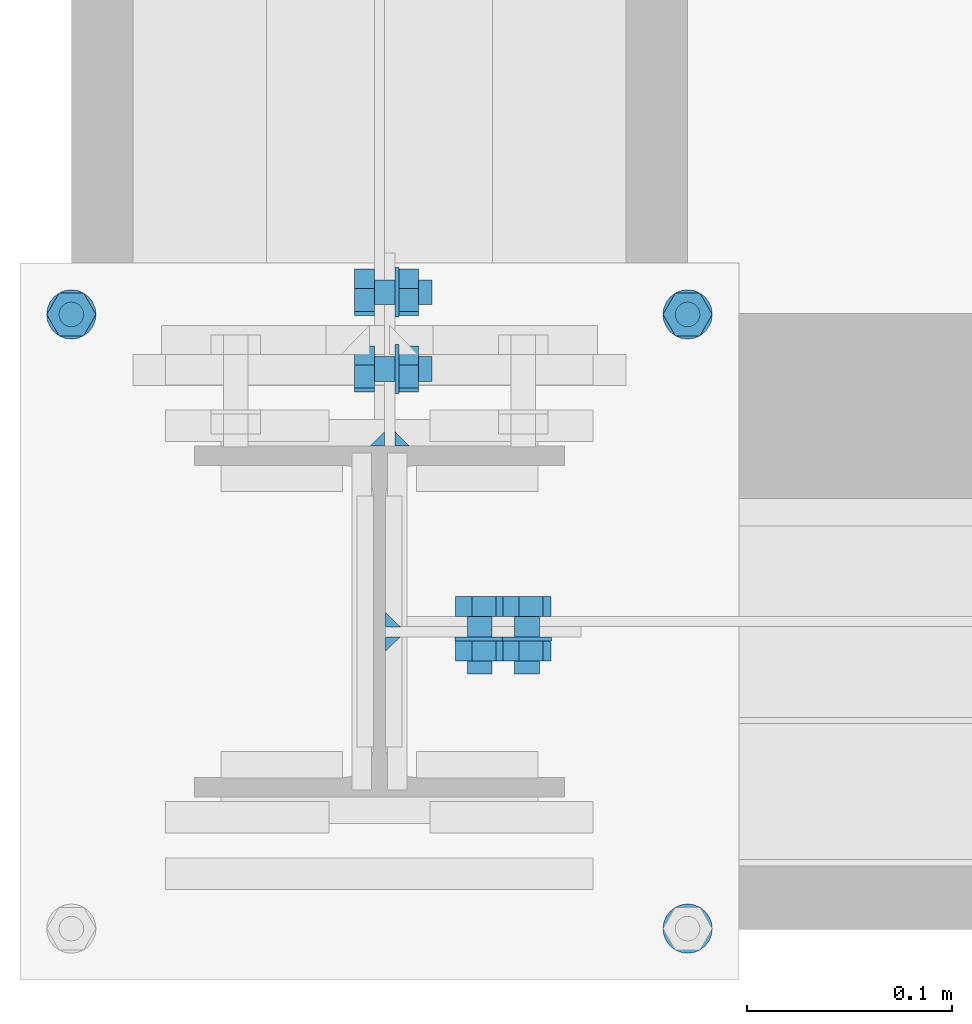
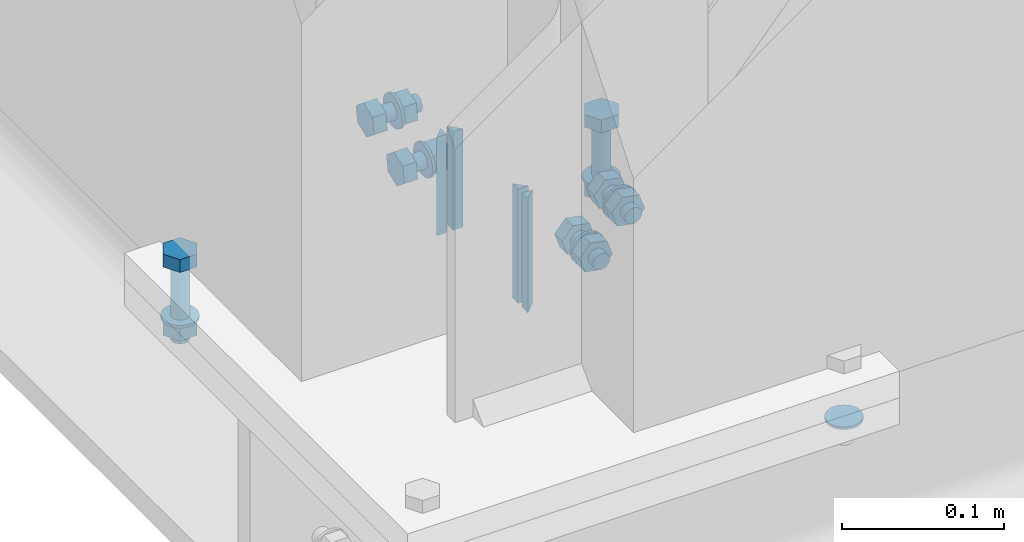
# One storey, part 27 of 66: 25 mechanical fasteners, 4 fasteners.
"""IFC4 building model written with IfcOpenShell, lengths in metres."""

from ifc_helpers import new_model, si_unit, frame, origin_with_axes, place, context, project, spatial, polyline, outline, extrude, type_object, element, save


model = new_model("IFC4")

# Units and contexts
model_context = context("Model", 3, precision=1e-05, world=origin_with_axes())
ifc_project = project(units=[si_unit("LENGTHUNIT", "METRE"), si_unit("AREAUNIT", "SQUARE_METRE"), si_unit("VOLUMEUNIT", "CUBIC_METRE"), si_unit("MASSUNIT", "GRAM", prefix="KILO"), si_unit("TIMEUNIT", "SECOND"), si_unit("PLANEANGLEUNIT", "RADIAN"), si_unit("SOLIDANGLEUNIT", "STERADIAN"), si_unit("THERMODYNAMICTEMPERATUREUNIT", "DEGREE_CELSIUS")], contexts=[model_context])

# Site, building, storey
placement_1 = place(None, origin_with_axes())
site = spatial("IfcSite", under=ifc_project, at=placement_1, Name="Italia", CompositionType="ELEMENT")
building = spatial("IfcBuilding", under=site, at=placement_1, Name="Uffici", CompositionType="ELEMENT")
storey_placement = place(None, frame((0.0, 0.0, 3.299999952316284), z_axis=(0.0, 0.0, 1.0), x_axis=(1.0, 0.0, 0.0)))
storey = spatial("IfcBuildingStorey", under=building, at=storey_placement, Name="Storey 1", CompositionType="ELEMENT", Elevation=3.299999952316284)

# Mechanical fasteners
mechanical_fastener_type_1 = type_object("IfcMechanicalFastenerType", Name="Collegamenti 0101_0201 0102_0202 0103_0203 0104_0204 0105_0205", PredefinedType="BOLT")
placement_2 = place(placement_1, origin_with_axes())
mechanical_fastener_1_placement = place(placement_2, origin_with_axes())
element("IfcMechanicalFastener", 1, at=mechanical_fastener_1_placement, inside=storey, type_object=mechanical_fastener_type_1, Name="Collegamenti 0101_0201 0102_0202 0103_0203 0104_0204 0105_0205", NominalDiameter=0.024, context=model_context, shape_type="SweptSolid", body=[
    extrude(outline(polyline([(0.0, 0.0), (-0.000408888, -0.00310583), (-0.00160769, -0.006), (-0.00351471, -0.00848529), (-0.006, -0.0103923), (-0.00889416, -0.0115911), (-0.012, -0.012), (-0.0151058, -0.0115911), (-0.018, -0.0103923), (-0.0204853, -0.00848529), (-0.0223923, -0.006), (-0.0235911, -0.00310583), (-0.024, 0.0), (-0.0235911, 0.00310583), (-0.0223923, 0.006), (-0.0204853, 0.00848529), (-0.018, 0.0103923), (-0.0151058, 0.0115911), (-0.012, 0.012), (-0.00889416, 0.0115911), (-0.006, 0.0103923), (-0.00351471, 0.00848527), (-0.00160769, 0.006), (-0.000408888, 0.00310582), (0.0, 0.0)])), frame((0.15, -0.1375, 3.278), z_axis=(0.0, 0.0, 1.0), x_axis=(0.0, 1.0, 0.0)), (0.0, 0.0, 1.0), 0.00200009),
])
mechanical_fastener_type_2 = type_object("IfcMechanicalFastenerType", Name="Collegamenti 0101_0201 0102_0202 0103_0203 0104_0204 0105_0205", PredefinedType="BOLT")
mechanical_fastener_2_placement = place(placement_2, origin_with_axes())
element("IfcMechanicalFastener", 2, at=mechanical_fastener_2_placement, inside=storey, type_object=mechanical_fastener_type_2, Name="Collegamenti 0101_0201 0102_0202 0103_0203 0104_0204 0105_0205", NominalDiameter=0.012, context=model_context, shape_type="SweptSolid", body=[
    extrude(outline(polyline([(0.0, 0.0), (0.0, 0.012), (0.0103923, 0.018), (0.0207846, 0.012), (0.0207846, 0.0), (0.0103923, -0.006), (0.0, 0.0)])), frame((-0.144, 0.139108, 3.32), z_axis=(0.0, 0.0, 1.0), x_axis=(0.0, 1.0, 0.0)), (0.0, 0.0, 1.0), 0.00959992),
])
mechanical_fastener_type_3 = type_object("IfcMechanicalFastenerType", Name="Collegamenti 0101_0201 0102_0202 0103_0203 0104_0204 0105_0205", PredefinedType="BOLT")
mechanical_fastener_3_placement = place(placement_2, origin_with_axes())
element("IfcMechanicalFastener", 3, at=mechanical_fastener_3_placement, inside=storey, type_object=mechanical_fastener_type_3, Name="Collegamenti 0101_0201 0102_0202 0103_0203 0104_0204 0105_0205", NominalDiameter=0.012, context=model_context, shape_type="SweptSolid", body=[
    extrude(outline(polyline([(0.0, 0.0), (-0.000204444, -0.00155291), (-0.000803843, -0.00300001), (-0.00175735, -0.00424264), (-0.00299999, -0.00519615), (-0.00444709, -0.00579555), (-0.006, -0.006), (-0.00755291, -0.00579555), (-0.009, -0.00519615), (-0.0102426, -0.00424264), (-0.0111962, -0.00300001), (-0.0117956, -0.00155291), (-0.012, 0.0), (-0.0117956, 0.00155291), (-0.0111962, 0.00300001), (-0.0102426, 0.00424264), (-0.009, 0.00519615), (-0.00755291, 0.00579555), (-0.006, 0.006), (-0.00444709, 0.00579555), (-0.00299999, 0.00519615), (-0.00175735, 0.00424264), (-0.000803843, 0.00299999), (-0.000204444, 0.00155291), (0.0, 0.0)])), frame((-0.15, 0.1555, 3.262), z_axis=(0.0, 0.0, 1.0), x_axis=(0.0, 1.0, 0.0)), (0.0, 0.0, 1.0), 0.0580001),
])
mechanical_fastener_type_4 = type_object("IfcMechanicalFastenerType", Name="Collegamenti 0101_0201 0102_0202 0103_0203 0104_0204 0105_0205", PredefinedType="BOLT")
mechanical_fastener_4_placement = place(placement_2, origin_with_axes())
element("IfcMechanicalFastener", 4, at=mechanical_fastener_4_placement, inside=storey, type_object=mechanical_fastener_type_4, Name="Collegamenti 0101_0201 0102_0202 0103_0203 0104_0204 0105_0205", NominalDiameter=0.012, context=model_context, shape_type="SweptSolid", body=[
    extrude(outline(polyline([(0.0, 0.0), (0.0, 0.012), (0.0103923, 0.018), (0.0207846, 0.012), (0.0207846, 0.0), (0.0103923, -0.006), (0.0, 0.0)])), frame((-0.144, 0.139108, 3.2684), z_axis=(0.0, 0.0, 1.0), x_axis=(0.0, 1.0, 0.0)), (0.0, 0.0, 1.0), 0.00959992),
])
mechanical_fastener_type_5 = type_object("IfcMechanicalFastenerType", Name="Collegamenti 0101_0201 0102_0202 0103_0203 0104_0204 0105_0205", PredefinedType="BOLT")
mechanical_fastener_5_placement = place(placement_2, origin_with_axes())
element("IfcMechanicalFastener", 5, at=mechanical_fastener_5_placement, inside=storey, type_object=mechanical_fastener_type_5, Name="Collegamenti 0101_0201 0102_0202 0103_0203 0104_0204 0105_0205", NominalDiameter=0.024, context=model_context, shape_type="SweptSolid", body=[
    extrude(outline(polyline([(0.0, 0.0), (-0.000408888, -0.00310583), (-0.00160769, -0.006), (-0.00351471, -0.00848529), (-0.006, -0.0103923), (-0.00889416, -0.0115911), (-0.012, -0.012), (-0.0151058, -0.0115911), (-0.018, -0.0103923), (-0.0204853, -0.00848529), (-0.0223923, -0.006), (-0.0235911, -0.00310583), (-0.024, 0.0), (-0.0235911, 0.00310583), (-0.0223923, 0.006), (-0.0204853, 0.00848529), (-0.018, 0.0103923), (-0.0151058, 0.0115911), (-0.012, 0.012), (-0.00889416, 0.0115911), (-0.006, 0.0103923), (-0.00351471, 0.00848527), (-0.00160769, 0.006), (-0.000408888, 0.00310582), (0.0, 0.0)])), frame((-0.15, 0.1615, 3.278), z_axis=(0.0, 0.0, 1.0), x_axis=(0.0, 1.0, 0.0)), (0.0, 0.0, 1.0), 0.00200009),
])
mechanical_fastener_type_6 = type_object("IfcMechanicalFastenerType", Name="Collegamenti 0101_0201 0102_0202 0103_0203 0104_0204 0105_0205", PredefinedType="BOLT")
mechanical_fastener_6_placement = place(placement_2, origin_with_axes())
element("IfcMechanicalFastener", 6, at=mechanical_fastener_6_placement, inside=storey, type_object=mechanical_fastener_type_6, Name="Collegamenti 0101_0201 0102_0202 0103_0203 0104_0204 0105_0205", NominalDiameter=0.012, context=model_context, shape_type="SweptSolid", body=[
    extrude(outline(polyline([(0.0, 0.0), (0.0, 0.012), (0.0103923, 0.018), (0.0207846, 0.012), (0.0207846, 0.0), (0.0103923, -0.006), (0.0, 0.0)])), frame((0.156, 0.139108, 3.32), z_axis=(0.0, 0.0, 1.0), x_axis=(0.0, 1.0, 0.0)), (0.0, 0.0, 1.0), 0.00959992),
])
mechanical_fastener_type_7 = type_object("IfcMechanicalFastenerType", Name="Collegamenti 0101_0201 0102_0202 0103_0203 0104_0204 0105_0205", PredefinedType="BOLT")
mechanical_fastener_7_placement = place(placement_2, origin_with_axes())
element("IfcMechanicalFastener", 7, at=mechanical_fastener_7_placement, inside=storey, type_object=mechanical_fastener_type_7, Name="Collegamenti 0101_0201 0102_0202 0103_0203 0104_0204 0105_0205", NominalDiameter=0.012, context=model_context, shape_type="SweptSolid", body=[
    extrude(outline(polyline([(0.0, 0.0), (-0.000204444, -0.00155291), (-0.000803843, -0.00300001), (-0.00175735, -0.00424264), (-0.00299999, -0.00519615), (-0.00444709, -0.00579555), (-0.006, -0.006), (-0.00755291, -0.00579555), (-0.009, -0.00519615), (-0.0102426, -0.00424264), (-0.0111962, -0.00300001), (-0.0117956, -0.00155291), (-0.012, 0.0), (-0.0117956, 0.00155291), (-0.0111962, 0.00300001), (-0.0102426, 0.00424264), (-0.009, 0.00519615), (-0.00755291, 0.00579555), (-0.006, 0.006), (-0.00444709, 0.00579555), (-0.00299999, 0.00519615), (-0.00175735, 0.00424264), (-0.000803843, 0.00299999), (-0.000204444, 0.00155291), (0.0, 0.0)])), frame((0.15, 0.1555, 3.262), z_axis=(0.0, 0.0, 1.0), x_axis=(0.0, 1.0, 0.0)), (0.0, 0.0, 1.0), 0.0580001),
])
mechanical_fastener_type_8 = type_object("IfcMechanicalFastenerType", Name="Collegamenti 0101_0201 0102_0202 0103_0203 0104_0204 0105_0205", PredefinedType="BOLT")
mechanical_fastener_8_placement = place(placement_2, origin_with_axes())
element("IfcMechanicalFastener", 8, at=mechanical_fastener_8_placement, inside=storey, type_object=mechanical_fastener_type_8, Name="Collegamenti 0101_0201 0102_0202 0103_0203 0104_0204 0105_0205", NominalDiameter=0.012, context=model_context, shape_type="SweptSolid", body=[
    extrude(outline(polyline([(0.0, 0.0), (0.0, 0.012), (0.0103923, 0.018), (0.0207846, 0.012), (0.0207846, 0.0), (0.0103923, -0.006), (0.0, 0.0)])), frame((0.156, 0.139108, 3.2684), z_axis=(0.0, 0.0, 1.0), x_axis=(0.0, 1.0, 0.0)), (0.0, 0.0, 1.0), 0.00959992),
])
mechanical_fastener_type_9 = type_object("IfcMechanicalFastenerType", Name="Collegamenti 0101_0201 0102_0202 0103_0203 0104_0204 0105_0205", PredefinedType="BOLT")
mechanical_fastener_9_placement = place(placement_2, origin_with_axes())
element("IfcMechanicalFastener", 9, at=mechanical_fastener_9_placement, inside=storey, type_object=mechanical_fastener_type_9, Name="Collegamenti 0101_0201 0102_0202 0103_0203 0104_0204 0105_0205", NominalDiameter=0.024, context=model_context, shape_type="SweptSolid", body=[
    extrude(outline(polyline([(0.0, 0.0), (-0.000408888, -0.00310583), (-0.00160769, -0.006), (-0.00351471, -0.00848529), (-0.006, -0.0103923), (-0.00889416, -0.0115911), (-0.012, -0.012), (-0.0151058, -0.0115911), (-0.018, -0.0103923), (-0.0204853, -0.00848529), (-0.0223923, -0.006), (-0.0235911, -0.00310583), (-0.024, 0.0), (-0.0235911, 0.00310583), (-0.0223923, 0.006), (-0.0204853, 0.00848529), (-0.018, 0.0103923), (-0.0151058, 0.0115911), (-0.012, 0.012), (-0.00889416, 0.0115911), (-0.006, 0.0103923), (-0.00351471, 0.00848527), (-0.00160769, 0.006), (-0.000408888, 0.00310582), (0.0, 0.0)])), frame((0.15, 0.1615, 3.278), z_axis=(0.0, 0.0, 1.0), x_axis=(0.0, 1.0, 0.0)), (0.0, 0.0, 1.0), 0.00200009),
])
mechanical_fastener_type_10 = type_object("IfcMechanicalFastenerType", Name="Collegamento 0101_0202", PredefinedType="BOLT")
mechanical_fastener_10_placement = place(placement_2, origin_with_axes())
element("IfcMechanicalFastener", 10, at=mechanical_fastener_10_placement, inside=storey, type_object=mechanical_fastener_type_10, Name="Collegamento 0101_0202", NominalDiameter=0.012, context=model_context, shape_type="SweptSolid", body=[
    extrude(outline(polyline([(0.0, 0.0), (0.00786194, -0.00906587), (0.0196442, -0.00679016), (0.0235645, 0.00455141), (0.0157025, 0.0136173), (0.00392028, 0.0113416), (0.0, 0.0)])), frame((0.0606436, 0.0025, 3.35407), z_axis=(0.0, 1.0, 0.0), x_axis=(-1.0, 0.0, 0.0)), (0.0, 0.0, 1.0), 0.0096),
])
mechanical_fastener_type_11 = type_object("IfcMechanicalFastenerType", Name="Collegamento 0101_0202", PredefinedType="BOLT")
mechanical_fastener_11_placement = place(placement_2, origin_with_axes())
element("IfcMechanicalFastener", 11, at=mechanical_fastener_11_placement, inside=storey, type_object=mechanical_fastener_type_11, Name="Collegamento 0101_0202", NominalDiameter=0.012, context=model_context, shape_type="SweptSolid", body=[
    extrude(outline(polyline([(0.0, 0.0), (-0.000204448, -0.00155282), (-0.000803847, -0.00300002), (-0.00175736, -0.00424266), (-0.003, -0.00519609), (-0.00444709, -0.00579548), (-0.006, -0.00600004), (-0.00755291, -0.00579548), (-0.009, -0.00519609), (-0.0102426, -0.00424266), (-0.0111962, -0.00300002), (-0.0117956, -0.00155282), (-0.012, 0.0), (-0.0117956, 0.00155282), (-0.0111962, 0.00300002), (-0.0102426, 0.00424266), (-0.009, 0.00519609), (-0.00755291, 0.00579548), (-0.006, 0.00600004), (-0.00444709, 0.00579548), (-0.003, 0.00519609), (-0.00175736, 0.00424266), (-0.000803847, 0.00300002), (-0.000204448, 0.00155282), (0.0, 0.0)])), frame((0.0428614, -0.0255, 3.35634), z_axis=(0.0, 1.0, 0.0), x_axis=(-1.0, 0.0, 0.0)), (0.0, 0.0, 1.0), 0.028),
])
mechanical_fastener_type_12 = type_object("IfcMechanicalFastenerType", Name="Collegamento 0101_0202", PredefinedType="BOLT")
mechanical_fastener_12_placement = place(placement_2, origin_with_axes())
element("IfcMechanicalFastener", 12, at=mechanical_fastener_12_placement, inside=storey, type_object=mechanical_fastener_type_12, Name="Collegamento 0101_0202", NominalDiameter=0.012, context=model_context, shape_type="SweptSolid", body=[
    extrude(outline(polyline([(0.0, 0.0), (0.00786194, -0.00906587), (0.0196442, -0.00679016), (0.0235645, 0.00455141), (0.0157025, 0.0136173), (0.00392028, 0.0113416), (0.0, 0.0)])), frame((0.0606436, -0.0191, 3.35407), z_axis=(0.0, 1.0, 0.0), x_axis=(-1.0, 0.0, 0.0)), (0.0, 0.0, 1.0), 0.0096),
])
mechanical_fastener_type_13 = type_object("IfcMechanicalFastenerType", Name="Collegamento 0101_0202", PredefinedType="BOLT")
mechanical_fastener_13_placement = place(placement_2, origin_with_axes())
element("IfcMechanicalFastener", 13, at=mechanical_fastener_13_placement, inside=storey, type_object=mechanical_fastener_type_13, Name="Collegamento 0101_0202", NominalDiameter=0.024, context=model_context, shape_type="SweptSolid", body=[
    extrude(outline(polyline([(0.0, 0.0), (-0.000408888, -0.00310588), (-0.00160769, -0.00600004), (-0.00351472, -0.00848532), (-0.006, -0.0103922), (-0.00889417, -0.0115912), (-0.012, -0.0120001), (-0.0151058, -0.0115912), (-0.018, -0.0103922), (-0.0204853, -0.00848532), (-0.0223923, -0.00600004), (-0.0235911, -0.00310588), (-0.024, 0.0), (-0.0235911, 0.00310588), (-0.0223923, 0.00600004), (-0.0204853, 0.00848532), (-0.018, 0.0103922), (-0.0151058, 0.0115912), (-0.012, 0.0120001), (-0.00889417, 0.0115912), (-0.006, 0.0103922), (-0.00351471, 0.00848532), (-0.00160769, 0.00600004), (-0.000408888, 0.00310588), (0.0, 0.0)])), frame((0.0368614, -0.0095, 3.35634), z_axis=(0.0, 1.0, 0.0), x_axis=(-1.0, 0.0, 0.0)), (0.0, 0.0, 1.0), 0.002),
])
mechanical_fastener_type_14 = type_object("IfcMechanicalFastenerType", Name="Collegamento 0101_0202", PredefinedType="BOLT")
mechanical_fastener_14_placement = place(placement_2, origin_with_axes())
element("IfcMechanicalFastener", 14, at=mechanical_fastener_14_placement, inside=storey, type_object=mechanical_fastener_type_14, Name="Collegamento 0101_0202", NominalDiameter=0.012, context=model_context, shape_type="SweptSolid", body=[
    extrude(outline(polyline([(0.0, 0.0), (0.00786194, -0.00906587), (0.0196442, -0.00679016), (0.0235645, 0.00455141), (0.0157025, 0.0136173), (0.00392029, 0.0113416), (0.0, 0.0)])), frame((0.0835743, 0.0025, 3.38051), z_axis=(0.0, 1.0, 0.0), x_axis=(-1.0, 0.0, 0.0)), (0.0, 0.0, 1.0), 0.0096),
])
mechanical_fastener_type_15 = type_object("IfcMechanicalFastenerType", Name="Collegamento 0101_0202", PredefinedType="BOLT")
mechanical_fastener_15_placement = place(placement_2, origin_with_axes())
element("IfcMechanicalFastener", 15, at=mechanical_fastener_15_placement, inside=storey, type_object=mechanical_fastener_type_15, Name="Collegamento 0101_0202", NominalDiameter=0.012, context=model_context, shape_type="SweptSolid", body=[
    extrude(outline(polyline([(0.0, 0.0), (-0.000204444, -0.00155282), (-0.000803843, -0.00300002), (-0.00175735, -0.00424266), (-0.003, -0.00519609), (-0.00444708, -0.00579548), (-0.006, -0.00600004), (-0.00755291, -0.00579548), (-0.009, -0.00519609), (-0.0102426, -0.00424266), (-0.0111962, -0.00300002), (-0.0117956, -0.00155282), (-0.012, 0.0), (-0.0117956, 0.00155282), (-0.0111962, 0.00300002), (-0.0102426, 0.00424266), (-0.009, 0.00519609), (-0.00755291, 0.00579548), (-0.006, 0.00600004), (-0.00444708, 0.00579548), (-0.003, 0.00519609), (-0.00175735, 0.00424266), (-0.000803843, 0.00300002), (-0.000204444, 0.00155282), (0.0, 0.0)])), frame((0.0657921, -0.0255, 3.38279), z_axis=(0.0, 1.0, 0.0), x_axis=(-1.0, 0.0, 0.0)), (0.0, 0.0, 1.0), 0.028),
])
mechanical_fastener_type_16 = type_object("IfcMechanicalFastenerType", Name="Collegamento 0101_0202", PredefinedType="BOLT")
mechanical_fastener_16_placement = place(placement_2, origin_with_axes())
element("IfcMechanicalFastener", 16, at=mechanical_fastener_16_placement, inside=storey, type_object=mechanical_fastener_type_16, Name="Collegamento 0101_0202", NominalDiameter=0.012, context=model_context, shape_type="SweptSolid", body=[
    extrude(outline(polyline([(0.0, 0.0), (0.00786194, -0.00906587), (0.0196442, -0.00679016), (0.0235645, 0.00455141), (0.0157025, 0.0136173), (0.00392029, 0.0113416), (0.0, 0.0)])), frame((0.0835743, -0.0191, 3.38051), z_axis=(0.0, 1.0, 0.0), x_axis=(-1.0, 0.0, 0.0)), (0.0, 0.0, 1.0), 0.0096),
])
mechanical_fastener_type_17 = type_object("IfcMechanicalFastenerType", Name="Collegamento 0101_0202", PredefinedType="BOLT")
mechanical_fastener_17_placement = place(placement_2, origin_with_axes())
element("IfcMechanicalFastener", 17, at=mechanical_fastener_17_placement, inside=storey, type_object=mechanical_fastener_type_17, Name="Collegamento 0101_0202", NominalDiameter=0.024, context=model_context, shape_type="SweptSolid", body=[
    extrude(outline(polyline([(0.0, 0.0), (-0.000408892, -0.00310588), (-0.0016077, -0.00600004), (-0.00351472, -0.00848532), (-0.006, -0.0103922), (-0.00889418, -0.0115912), (-0.012, -0.0120001), (-0.0151058, -0.0115912), (-0.018, -0.0103922), (-0.0204853, -0.00848532), (-0.0223923, -0.00600004), (-0.0235911, -0.00310588), (-0.024, 0.0), (-0.0235911, 0.00310588), (-0.0223923, 0.00600004), (-0.0204853, 0.00848532), (-0.018, 0.0103922), (-0.0151058, 0.0115912), (-0.012, 0.0120001), (-0.00889418, 0.0115912), (-0.006, 0.0103922), (-0.00351471, 0.00848532), (-0.00160769, 0.00600004), (-0.000408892, 0.00310588), (0.0, 0.0)])), frame((0.0597921, -0.0095, 3.38279), z_axis=(0.0, 1.0, 0.0), x_axis=(-1.0, 0.0, 0.0)), (0.0, 0.0, 1.0), 0.002),
])

# Fasteners
fastener_type_1 = type_object("IfcFastenerType", Name="Collegamento 0101_0202", PredefinedType="WELD")
fastener_1_placement = place(placement_2, origin_with_axes())
element("IfcFastener", 18, at=fastener_1_placement, inside=storey, type_object=fastener_type_1, Name="Collegamento 0101_0202", context=model_context, shape_type="SweptSolid", body=[
    extrude(outline(polyline([(0.0, 0.0), (0.00695816, 0.00717336), (0.00695816, 0.0), (0.0, 0.0)])), frame((0.00295002, -0.0144082, 3.41301), z_axis=(-2.37968322e-07, 0.0, -1.0), x_axis=(0.0, 1.0, 0.0)), (0.0, 0.0, 1.0), 0.0861001),
])
fastener_type_2 = type_object("IfcFastenerType", Name="Collegamento 0101_0202", PredefinedType="WELD")
fastener_2_placement = place(placement_2, origin_with_axes())
element("IfcFastener", 19, at=fastener_2_placement, inside=storey, type_object=fastener_type_2, Name="Collegamento 0101_0202", context=model_context, shape_type="SweptSolid", body=[
    extrude(outline(polyline([(0.0, 0.0), (-0.00695816, -0.00717336), (-0.00695816, 0.0), (0.0, 0.0)])), frame((0.00295, 0.00440816, 3.32691), z_axis=(2.37967669e-07, 0.0, 1.0), x_axis=(0.0, 1.0, 0.0)), (0.0, 0.0, 1.0), 0.0861003),
])

# Mechanical fasteners
mechanical_fastener_type_18 = type_object("IfcMechanicalFastenerType", Name="Collegamento 0101_0206", PredefinedType="BOLT")
mechanical_fastener_18_placement = place(placement_2, origin_with_axes())
element("IfcMechanicalFastener", 20, at=mechanical_fastener_18_placement, inside=storey, type_object=mechanical_fastener_type_18, Name="Collegamento 0101_0206", NominalDiameter=0.0119998, context=model_context, shape_type="SweptSolid", body=[
    extrude(outline(polyline([(0.0, 0.0), (0.0112203, -0.00425506), (0.0205154, 0.00333452), (0.0185901, 0.0151792), (0.00736985, 0.019434), (-0.00192523, 0.0118444), (0.0, 0.0)])), frame((-0.0025, 0.132196, 3.34971), z_axis=(-1.0, 0.0, 0.0), x_axis=(0.0, -1.0, 0.0)), (0.0, 0.0, 1.0), 0.0096),
])
mechanical_fastener_type_19 = type_object("IfcMechanicalFastenerType", Name="Collegamento 0101_0206", PredefinedType="BOLT")
mechanical_fastener_19_placement = place(placement_2, origin_with_axes())
element("IfcMechanicalFastener", 21, at=mechanical_fastener_19_placement, inside=storey, type_object=mechanical_fastener_type_19, Name="Collegamento 0101_0206", NominalDiameter=0.012, context=model_context, shape_type="SweptSolid", body=[
    extrude(outline(polyline([(0.0, 0.0), (-0.000204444, -0.00155282), (-0.000803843, -0.00300002), (-0.00175735, -0.00424266), (-0.003, -0.00519609), (-0.00444708, -0.00579548), (-0.006, -0.00600004), (-0.00755291, -0.00579548), (-0.009, -0.00519609), (-0.0102426, -0.00424266), (-0.0111962, -0.00300002), (-0.0117956, -0.00155282), (-0.012, 0.0), (-0.0117956, 0.00155282), (-0.0111962, 0.00300002), (-0.0102426, 0.00424266), (-0.009, 0.00519609), (-0.00755291, 0.00579548), (-0.006, 0.00600004), (-0.00444708, 0.00579548), (-0.003, 0.00519609), (-0.00175735, 0.00424266), (-0.000803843, 0.00300002), (-0.000204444, 0.00155282), (0.0, 0.0)])), frame((0.0255, 0.116901, 3.3573), z_axis=(-1.0, 0.0, 0.0), x_axis=(0.0, -1.0, 0.0)), (0.0, 0.0, 1.0), 0.028),
])
mechanical_fastener_type_20 = type_object("IfcMechanicalFastenerType", Name="Collegamento 0101_0206", PredefinedType="BOLT")
mechanical_fastener_20_placement = place(placement_2, origin_with_axes())
element("IfcMechanicalFastener", 22, at=mechanical_fastener_20_placement, inside=storey, type_object=mechanical_fastener_type_20, Name="Collegamento 0101_0206", NominalDiameter=0.0119998, context=model_context, shape_type="SweptSolid", body=[
    extrude(outline(polyline([(0.0, 0.0), (0.0112203, -0.00425506), (0.0205154, 0.00333452), (0.0185901, 0.0151792), (0.00736985, 0.019434), (-0.00192523, 0.0118444), (0.0, 0.0)])), frame((0.0191, 0.132196, 3.34971), z_axis=(-1.0, 0.0, 0.0), x_axis=(0.0, -1.0, 0.0)), (0.0, 0.0, 1.0), 0.0096),
])
mechanical_fastener_type_21 = type_object("IfcMechanicalFastenerType", Name="Collegamento 0101_0206", PredefinedType="BOLT")
mechanical_fastener_21_placement = place(placement_2, origin_with_axes())
element("IfcMechanicalFastener", 23, at=mechanical_fastener_21_placement, inside=storey, type_object=mechanical_fastener_type_21, Name="Collegamento 0101_0206", NominalDiameter=0.024, context=model_context, shape_type="SweptSolid", body=[
    extrude(outline(polyline([(0.0, 0.0), (-0.000408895, -0.00310588), (-0.00160769, -0.00600004), (-0.00351472, -0.00848532), (-0.006, -0.0103922), (-0.00889418, -0.0115912), (-0.012, -0.0120001), (-0.0151058, -0.0115912), (-0.018, -0.0103922), (-0.0204853, -0.00848532), (-0.0223923, -0.00600004), (-0.0235911, -0.00310588), (-0.024, 0.0), (-0.0235911, 0.00310588), (-0.0223923, 0.00600004), (-0.0204853, 0.00848532), (-0.018, 0.0103922), (-0.0151058, 0.0115912), (-0.012, 0.0120001), (-0.00889418, 0.0115912), (-0.006, 0.0103922), (-0.00351471, 0.00848532), (-0.00160769, 0.00600004), (-0.000408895, 0.00310588), (0.0, 0.0)])), frame((0.0095, 0.110901, 3.3573), z_axis=(-1.0, 0.0, 0.0), x_axis=(0.0, -1.0, 0.0)), (0.0, 0.0, 1.0), 0.002),
])
mechanical_fastener_type_22 = type_object("IfcMechanicalFastenerType", Name="Collegamento 0101_0206", PredefinedType="BOLT")
mechanical_fastener_22_placement = place(placement_2, origin_with_axes())
element("IfcMechanicalFastener", 24, at=mechanical_fastener_22_placement, inside=storey, type_object=mechanical_fastener_type_22, Name="Collegamento 0101_0206", NominalDiameter=0.0119998, context=model_context, shape_type="SweptSolid", body=[
    extrude(outline(polyline([(0.0, 0.0), (0.0112203, -0.00425506), (0.0205154, 0.00333452), (0.0185901, 0.0151792), (0.00736985, 0.019434), (-0.00192524, 0.0118444), (0.0, 0.0)])), frame((-0.0025, 0.169597, 3.36389), z_axis=(-1.0, 0.0, 0.0), x_axis=(0.0, -1.0, 0.0)), (0.0, 0.0, 1.0), 0.0096),
])
mechanical_fastener_type_23 = type_object("IfcMechanicalFastenerType", Name="Collegamento 0101_0206", PredefinedType="BOLT")
mechanical_fastener_23_placement = place(placement_2, origin_with_axes())
element("IfcMechanicalFastener", 25, at=mechanical_fastener_23_placement, inside=storey, type_object=mechanical_fastener_type_23, Name="Collegamento 0101_0206", NominalDiameter=0.012, context=model_context, shape_type="SweptSolid", body=[
    extrude(outline(polyline([(0.0, 0.0), (-0.000204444, -0.00155282), (-0.000803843, -0.00300002), (-0.00175735, -0.00424266), (-0.00299999, -0.00519609), (-0.00444709, -0.00579548), (-0.006, -0.00600004), (-0.00755291, -0.00579548), (-0.009, -0.00519609), (-0.0102426, -0.00424266), (-0.0111962, -0.00300002), (-0.0117956, -0.00155282), (-0.012, 0.0), (-0.0117956, 0.00155282), (-0.0111962, 0.00300002), (-0.0102426, 0.00424266), (-0.009, 0.00519609), (-0.00755291, 0.00579548), (-0.006, 0.00600004), (-0.00444709, 0.00579548), (-0.00299999, 0.00519609), (-0.00175735, 0.00424266), (-0.000803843, 0.00300002), (-0.000204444, 0.00155282), (0.0, 0.0)])), frame((0.0255, 0.154302, 3.37148), z_axis=(-1.0, 0.0, 0.0), x_axis=(0.0, -1.0, 0.0)), (0.0, 0.0, 1.0), 0.028),
])
mechanical_fastener_type_24 = type_object("IfcMechanicalFastenerType", Name="Collegamento 0101_0206", PredefinedType="BOLT")
mechanical_fastener_24_placement = place(placement_2, origin_with_axes())
element("IfcMechanicalFastener", 26, at=mechanical_fastener_24_placement, inside=storey, type_object=mechanical_fastener_type_24, Name="Collegamento 0101_0206", NominalDiameter=0.0119998, context=model_context, shape_type="SweptSolid", body=[
    extrude(outline(polyline([(0.0, 0.0), (0.0112203, -0.00425506), (0.0205154, 0.00333452), (0.0185901, 0.0151792), (0.00736985, 0.019434), (-0.00192524, 0.0118444), (0.0, 0.0)])), frame((0.0191, 0.169597, 3.36389), z_axis=(-1.0, 0.0, 0.0), x_axis=(0.0, -1.0, 0.0)), (0.0, 0.0, 1.0), 0.0096),
])
mechanical_fastener_type_25 = type_object("IfcMechanicalFastenerType", Name="Collegamento 0101_0206", PredefinedType="BOLT")
mechanical_fastener_25_placement = place(placement_2, origin_with_axes())
element("IfcMechanicalFastener", 27, at=mechanical_fastener_25_placement, inside=storey, type_object=mechanical_fastener_type_25, Name="Collegamento 0101_0206", NominalDiameter=0.024, context=model_context, shape_type="SweptSolid", body=[
    extrude(outline(polyline([(0.0, 0.0), (-0.000408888, -0.00310588), (-0.00160769, -0.00600004), (-0.00351471, -0.00848532), (-0.006, -0.0103922), (-0.00889416, -0.0115912), (-0.012, -0.0120001), (-0.0151058, -0.0115912), (-0.018, -0.0103922), (-0.0204853, -0.00848532), (-0.0223923, -0.00600004), (-0.0235911, -0.00310588), (-0.024, 0.0), (-0.0235911, 0.00310588), (-0.0223923, 0.00600004), (-0.0204853, 0.00848532), (-0.018, 0.0103922), (-0.0151058, 0.0115912), (-0.012, 0.0120001), (-0.00889416, 0.0115912), (-0.006, 0.0103922), (-0.00351471, 0.00848532), (-0.00160769, 0.00600004), (-0.000408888, 0.00310588), (0.0, 0.0)])), frame((0.0095, 0.148302, 3.37148), z_axis=(-1.0, 0.0, 0.0), x_axis=(0.0, -1.0, 0.0)), (0.0, 0.0, 1.0), 0.002),
])

# Fasteners
fastener_type_3 = type_object("IfcFastenerType", Name="Collegamento 0101_0206", PredefinedType="WELD")
fastener_3_placement = place(placement_2, origin_with_axes())
element("IfcFastener", 28, at=fastener_3_placement, inside=storey, type_object=fastener_type_3, Name="Collegamento 0101_0206", context=model_context, shape_type="SweptSolid", body=[
    extrude(outline(polyline([(0.0, 0.0), (0.00717336, -0.00695816), (0.0, -0.00695816), (0.0, 0.0)])), frame((0.0144082, 0.08545, 3.40116), z_axis=(0.0, 5.02736498e-07, -1.0), x_axis=(0.0, 1.0, 0.0)), (0.0, 0.0, 1.0), 0.0741003),
])
fastener_type_4 = type_object("IfcFastenerType", Name="Collegamento 0101_0206", PredefinedType="WELD")
fastener_4_placement = place(placement_2, origin_with_axes())
element("IfcFastener", 29, at=fastener_4_placement, inside=storey, type_object=fastener_type_4, Name="Collegamento 0101_0206", context=model_context, shape_type="SweptSolid", body=[
    extrude(outline(polyline([(0.0, 0.0), (0.00717336, -0.00695816), (0.0, -0.00695816), (0.0, 0.0)])), frame((-0.00440816, 0.08545, 3.32706), z_axis=(0.0, -5.02734906e-07, 1.0), x_axis=(0.0, 1.0, 0.0)), (0.0, 0.0, 1.0), 0.0741005),
])

save(model, "model.ifc")
